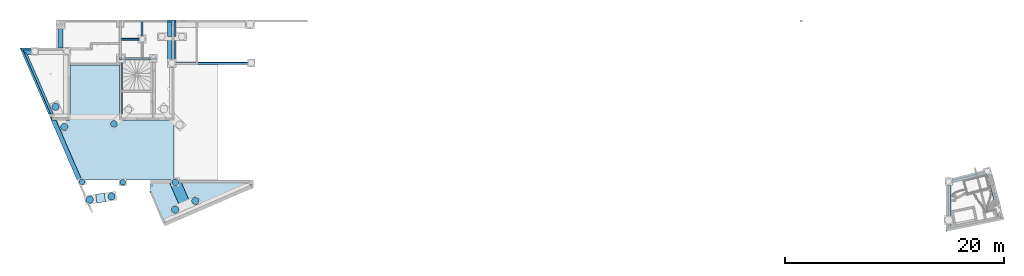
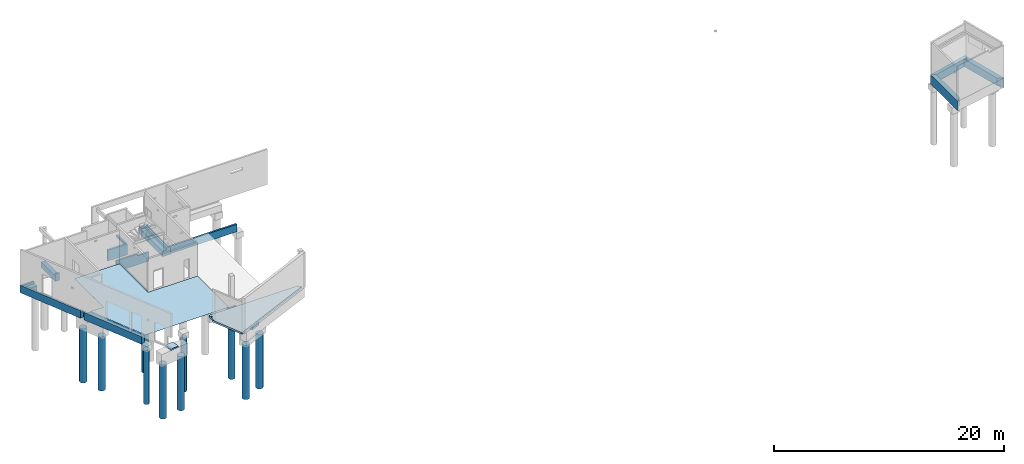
# One storey, part 3 of 29: 15 beams, 13 slabs, 1 opening.
"""IFC2X3 building model written with IfcOpenShell, lengths in centimetres."""

from ifc_helpers import new_model, entity, si_unit, converted_unit, derived_unit, direction, frame, frame_2d, origin, origin_2d_with_axis, place, context, subcontext, project, spatial, polyline, rectangle, circle, outline, extrude, faceted_brep, source, transform, mapped, material, material_list, layer, layer_set, layer_usage, type_object, type_shapes, element, save


model = new_model("IFC2X3")

# Units and contexts
model_context = context("Model", 3, precision=0.001, world=origin(), true_north=direction((6.12303176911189e-17, 1.0)))
body_context = subcontext(model_context, "Body", "Model", "MODEL_VIEW")
ifc_project = project(units=[si_unit("LENGTHUNIT", "METRE", prefix="CENTI"), si_unit("AREAUNIT", "SQUARE_METRE"), si_unit("VOLUMEUNIT", "CUBIC_METRE"), converted_unit("PLANEANGLEUNIT", "DEGREE", entity("IfcRatioMeasure", 0.0174532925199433), si_unit("PLANEANGLEUNIT", "RADIAN"), dimensions=[0, 0, 0, 0, 0, 0, 0]), si_unit("MASSUNIT", "GRAM", prefix="KILO"), derived_unit("MASSDENSITYUNIT", [(si_unit("MASSUNIT", "GRAM", prefix="KILO"), 1), (si_unit("LENGTHUNIT", "METRE"), -3)]), si_unit("TIMEUNIT", "SECOND"), si_unit("FREQUENCYUNIT", "HERTZ"), si_unit("THERMODYNAMICTEMPERATUREUNIT", "DEGREE_CELSIUS"), derived_unit("THERMALTRANSMITTANCEUNIT", [(si_unit("MASSUNIT", "GRAM", prefix="KILO"), 1), (si_unit("THERMODYNAMICTEMPERATUREUNIT", "KELVIN"), -1), (si_unit("TIMEUNIT", "SECOND"), -3)]), derived_unit("VOLUMETRICFLOWRATEUNIT", [(si_unit("LENGTHUNIT", "METRE"), 3), (si_unit("TIMEUNIT", "SECOND"), -1)]), si_unit("ELECTRICCURRENTUNIT", "AMPERE"), si_unit("ELECTRICVOLTAGEUNIT", "VOLT"), si_unit("POWERUNIT", "WATT"), si_unit("FORCEUNIT", "NEWTON"), si_unit("ILLUMINANCEUNIT", "LUX"), si_unit("LUMINOUSFLUXUNIT", "LUMEN"), si_unit("LUMINOUSINTENSITYUNIT", "CANDELA"), derived_unit("USERDEFINED", [(si_unit("MASSUNIT", "GRAM", prefix="KILO"), -1), (si_unit("LENGTHUNIT", "METRE"), -2), (si_unit("TIMEUNIT", "SECOND"), 3), (si_unit("LUMINOUSFLUXUNIT", "LUMEN"), 1)]), derived_unit("LINEARVELOCITYUNIT", [(si_unit("LENGTHUNIT", "METRE"), 1), (si_unit("TIMEUNIT", "SECOND"), -1)]), si_unit("PRESSUREUNIT", "PASCAL"), derived_unit("USERDEFINED", [(si_unit("LENGTHUNIT", "METRE"), -2), (si_unit("MASSUNIT", "GRAM", prefix="KILO"), 1), (si_unit("TIMEUNIT", "SECOND"), -2)])], contexts=[model_context])

# Site, building, storey
site_placement = place(None, origin())
site = spatial("IfcSite", under=ifc_project, at=site_placement, Name="Default", CompositionType="ELEMENT")
building_placement = place(site_placement, origin())
building = spatial("IfcBuilding", under=site, at=building_placement, Name="CAGE 03", CompositionType="ELEMENT")
storey_placement = place(building_placement, frame((0.0, 0.0, -34.0)))
storey = spatial("IfcBuildingStorey", under=building, at=storey_placement, Name="+3.66", CompositionType="ELEMENT", Elevation=-34.0000000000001)

# Beams
ifc_material_1 = material(Name="Béton, C25/30")
ifc_material_2 = material(Name="<Unnamed>")
ifc_material_list = material_list([ifc_material_1, ifc_material_2])
beam_type_1 = type_object("IfcBeamType", Name="40x80ht", PredefinedType="BEAM", material=ifc_material_list)
beam_1_placement = place(storey_placement, frame((3097.36582014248, 5028.16066607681, -85.0), z_axis=(0.0, 0.0, 1.0), x_axis=(0.0, 1.0, 0.0)))
element("IfcBeam", 1, at=beam_1_placement, inside=storey, type_object=beam_type_1, material=ifc_material_1, Name="BBGO-Poutre rect:40x80ht", ObjectType="BBGO-Poutre rect:40x80ht", context=body_context, shape_type="Brep", body=[
    faceted_brep([(0.0, -40.0, 80.0), (0.0, 0.0, 80.0), (0.0, 0.0, 0.0), (0.0, -40.0, 0.0), (9.0, -40.0, 0.0), (247.5, -40.0, 0.0), (247.5, -40.0, 60.0), (9.0, -40.0, 60.0), (9.0, -40.0, 80.0), (9.0, 0.0, 0.0), (247.500000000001, 0.0, 0.0), (9.0, 0.0, 80.0), (9.0, 0.0, 60.0), (247.500000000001, 0.0, 60.0)], [[[0, 1, 2, 3]], [[0, 3, 4, 5, 6, 7, 8]], [[3, 2, 9, 10, 5, 4]], [[2, 1, 11, 12, 13, 10, 9]], [[7, 6, 13, 12]], [[8, 7, 12, 11]], [[6, 5, 10, 13]], [[1, 0, 8, 11]]]),
])
beam_2_placement = place(storey_placement, frame((2746.91306854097, 4409.12314852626, -85.0), z_axis=(0.0, 0.0, 1.0), x_axis=(-0.397106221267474, 0.91777265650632, 0.0)))
element("IfcBeam", 2, at=beam_2_placement, inside=storey, type_object=beam_type_1, material=ifc_material_1, Name="BBGO-Poutre rect:40x80ht", ObjectType="BBGO-Poutre rect:40x80ht", context=body_context, shape_type="Brep", body=[
    faceted_brep([(-116.523353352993, -289.397605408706, 0.0), (-95.2132005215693, -289.397605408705, 0.0), (493.712603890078, -289.397605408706, 0.0), (493.712603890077, -289.397605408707, 60.0), (-95.2132005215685, -289.397605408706, 60.0), (-116.523353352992, -289.397605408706, 60.0), (-116.523353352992, -269.303128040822, 0.0), (-91.2501727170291, -280.23844757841, 0.0), (-77.9058110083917, -249.397605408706, 0.0), (576.395660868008, -249.397605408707, 0.0), (576.395660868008, -249.397605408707, 80.0), (-77.9058110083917, -249.397605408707, 80.0), (539.188285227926, -267.397605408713, 80.0), (-85.6941362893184, -267.397605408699, 80.0), (539.188285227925, -267.397605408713, 60.0), (-85.6941362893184, -267.397605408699, 60.0), (-91.2501727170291, -280.23844757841, 60.0), (-116.523353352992, -269.303128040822, 60.0)], [[[0, 1, 2, 3, 4, 5]], [[2, 1, 0, 6, 7, 8, 9]], [[10, 9, 8, 11]], [[12, 10, 11, 13]], [[5, 4, 3, 14, 15, 16, 17]], [[14, 12, 13, 15]], [[2, 9, 10, 12, 14, 3]], [[16, 7, 6, 17]], [[7, 16, 15, 13, 11, 8]], [[0, 5, 17, 6]]]),
])
beam_3_placement = place(storey_placement, frame((3022.07551992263, 3828.40290415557, -85.0), z_axis=(0.0, 0.0, 1.0), x_axis=(-0.397106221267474, 0.91777265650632, 0.0)))
element("IfcBeam", 3, at=beam_3_placement, inside=storey, type_object=beam_type_1, material=ifc_material_1, Name="BBGO-Poutre rect:40x80ht", ObjectType="BBGO-Poutre rect:40x80ht", context=body_context, shape_type="Brep", body=[
    faceted_brep([(487.096986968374, -267.468653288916, 0.0), (487.096986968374, -267.468653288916, 80.0), (-98.4222146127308, -267.468653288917, 80.0), (-98.4222146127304, -267.468653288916, 0.0), (500.510213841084, -236.468653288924, 0.0), (-98.4222146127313, -227.468653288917, 0.0), (-91.3604579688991, -227.468653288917, 0.0), (504.404376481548, -227.468653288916, 0.0), (525.714529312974, -227.468653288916, 0.0), (525.714529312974, -247.37417592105, 0.0), (-98.4222146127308, -227.468653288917, 80.0), (525.714529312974, -227.468653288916, 80.0), (500.510213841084, -236.468653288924, 80.0), (521.310577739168, -245.468653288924, 80.0), (525.714529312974, -245.468653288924, 80.0), (-98.4222146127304, -245.468653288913, 80.0), (525.714529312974, -247.374175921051, 60.0), (521.310577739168, -245.468653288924, 60.0), (525.714529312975, -245.468653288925, 60.0)], [[[0, 1, 2, 3]], [[4, 0, 3, 5, 6, 7, 8, 9]], [[5, 10, 11, 8, 7, 6]], [[1, 12, 13, 14, 11, 10, 15, 2]], [[12, 4, 9, 16, 17, 13]], [[1, 0, 4, 12]], [[3, 2, 15, 10, 5]], [[18, 17, 16]], [[17, 18, 14, 13]], [[8, 11, 14, 18, 16, 9]]]),
])
beam_type_2 = type_object("IfcBeamType", Name="BBGO-Poutre rect:60x80ht", PredefinedType="BEAM")
beam_4_placement = place(storey_placement, frame((2746.91306854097, 4977.16066607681, -85.0)))
element("IfcBeam", 4, at=beam_4_placement, inside=storey, type_object=beam_type_2, material=ifc_material_1, Name="BBGO-Poutre rect:60x80ht", ObjectType="BBGO-Poutre rect:60x80ht", context=body_context, shape_type="Brep", body=[
    faceted_brep([(69.5448625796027, 0.0, 0.0), (135.452751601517, 0.0, 0.0), (135.452751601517, 0.0, 60.0), (69.5448625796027, 0.0, 60.0), (0.0, 60.0, 0.0), (135.452751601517, 60.0, 0.0), (0.0, 60.0, 80.0), (19.6127002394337, 60.0, 80.0), (135.452751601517, 60.0, 80.0), (31.2951881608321, 33.0, 80.0), (27.4010255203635, 42.0, 80.0), (135.452751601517, 42.0, 80.0), (135.452751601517, 42.0, 60.0), (27.4010255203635, 42.0, 60.0), (31.2951881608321, 33.0, 60.0)], [[[0, 1, 2, 3]], [[1, 0, 4, 5]], [[5, 4, 6, 7, 8]], [[8, 7, 6, 9, 10, 11]], [[12, 13, 14, 3, 2]], [[13, 10, 9, 14]], [[10, 13, 12, 11]], [[1, 5, 8, 11, 12, 2]], [[6, 4, 0, 3, 14, 9]]]),
])
beam_type_3 = type_object("IfcBeamType", Name="BBGO-Poutre rect:30x80ht", PredefinedType="BEAM")
beam_5_placement = place(storey_placement, frame((3654.36582014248, 4436.66066607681, -85.0), z_axis=(0.0, 0.0, 1.0), x_axis=(0.0, 1.0, 0.0)))
element("IfcBeam", 5, at=beam_5_placement, inside=storey, type_object=beam_type_3, material=ifc_material_1, Name="BBGO-Poutre rect:30x80ht", ObjectType="BBGO-Poutre rect:30x80ht", context=body_context, shape_type="Brep", body=[
    faceted_brep([(496.0, -30.0, 60.0), (0.0, -30.0, 60.0), (0.0, -30.0, 0.0), (496.0, -30.0, 0.0), (0.0, 0.0, 0.0), (496.0, 0.0, 0.0), (445.0, 0.0, 80.0), (445.0, 0.0, 10.0), (463.0, 0.0, 10.0), (463.0, 0.0, 60.0), (463.0, 0.0, 80.0), (496.0, 0.0, 80.0), (0.0, 0.0, 80.0), (463.0, -9.0, 80.0), (445.0, -9.0, 80.0), (0.0, -18.0, 80.0), (496.0, -18.0, 80.0), (496.0, -18.0, 60.0), (0.0, -18.0, 60.0), (445.0, -9.0, 10.0), (463.0, -9.0, 10.0)], [[[0, 1, 2, 3]], [[2, 4, 5, 3]], [[6, 7, 8, 9, 10, 11, 5, 4, 12]], [[13, 14, 6, 12, 15, 16, 11, 10]], [[1, 0, 17, 18]], [[19, 14, 13, 20]], [[14, 19, 7, 6]], [[19, 20, 8, 7]], [[20, 13, 10, 9, 8]], [[16, 15, 18, 17]], [[2, 1, 18, 15, 12, 4]], [[0, 3, 5, 11, 16, 17]]]),
])
beam_type_4 = type_object("IfcBeamType", Name="BBGO-Poutre rect:80x80ht", PredefinedType="BEAM")
beam_6_placement = place(storey_placement, frame((4092.36582014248, 4886.66066607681, -85.0), z_axis=(0.0, 0.0, 1.0), x_axis=(0.0, 1.0, 0.0)))
element("IfcBeam", 6, at=beam_6_placement, inside=storey, type_object=beam_type_4, material=ifc_material_1, Name="BBGO-Poutre rect:80x80ht", ObjectType="BBGO-Poutre rect:80x80ht", context=body_context, shape_type="Brep", body=[
    faceted_brep([(255.0, -80.0, 0.0), (255.0, 0.0, 0.0), (255.0, 0.0, 60.0), (255.0, -42.0, 60.0), (255.0, -42.0, 80.0), (255.0, -60.0, 80.0), (255.0, -60.0, 65.0), (255.0, -80.0, 65.0), (0.0, -80.0, 0.0), (0.0, -80.0, 5.0), (0.0, -80.0, 80.0), (0.0, -60.0, 80.0), (0.0, -42.0, 80.0), (0.0, -42.0, 60.0), (0.0, -20.0, 60.0), (0.0, 0.0, 60.0), (0.0, 0.0, 0.0), (0.0, -20.0, 0.0), (0.0, -60.0, 0.0), (52.5000000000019, 0.0, 0.0), (52.5000000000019, -80.0, 0.0), (25.0, -80.0, 65.0), (18.0, -80.0, 65.0), (18.0, -80.0, 80.0), (18.0, -60.0, 80.0), (9.0, -42.0, 80.0), (18.0, -60.0, 65.0)], [[[0, 1, 2, 3, 4, 5, 6, 7]], [[8, 9, 10, 11, 12, 13, 14, 15, 16, 17, 18]], [[1, 19, 16, 15, 2]], [[1, 0, 20, 8, 18, 17, 16, 19]], [[10, 9, 8, 20, 0, 7, 21, 22, 23]], [[12, 11, 10, 23, 24, 5, 4, 25]], [[15, 14, 13, 3, 2]], [[13, 12, 25, 4, 3]], [[6, 26, 22, 21, 7]], [[22, 26, 24, 23]], [[26, 6, 5, 24]]]),
])
beam_7_placement = place(storey_placement, frame((4092.36582014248, 5141.66066607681, -85.0), z_axis=(0.0, 0.0, 1.0), x_axis=(0.0, 1.0, 0.0)))
element("IfcBeam", 7, at=beam_7_placement, inside=storey, type_object=beam_type_4, material=ifc_material_1, Name="BBGO-Poutre rect:80x80ht", ObjectType="BBGO-Poutre rect:80x80ht", context=body_context, shape_type="Brep", body=[
    faceted_brep([(152.0, 0.0, 0.0), (152.0, 0.0, 80.0), (152.0, -60.0, 80.0), (152.0, -80.0, 80.0), (152.0, -80.0, 5.0), (152.0, -80.0, 0.0), (0.0, 0.0, 0.0), (0.0, -80.0, 0.0), (0.0, -80.0, 65.0), (0.0, -60.0, 65.0), (0.0, -60.0, 80.0), (0.0, -42.0, 80.0), (0.0, -42.0, 60.0), (0.0, 0.0, 60.0), (134.0, 0.0, 0.0), (134.0, 0.0, 60.0), (134.0, 0.0, 80.0), (134.0, -80.0, 80.0), (134.0, -80.0, 65.0), (82.0, -80.0, 65.0), (134.0, -42.0, 80.0), (134.0, -60.0, 80.0), (134.0, -42.0, 60.0), (134.0, -60.0, 65.0)], [[[0, 1, 2, 3, 4, 5]], [[6, 7, 8, 9, 10, 11, 12, 13]], [[1, 0, 14, 6, 13, 15, 16]], [[0, 5, 7, 6, 14]], [[5, 4, 3, 17, 18, 19, 8, 7]], [[3, 2, 1, 16, 20, 11, 10, 21, 17]], [[22, 15, 13, 12]], [[22, 20, 16, 15]], [[20, 22, 12, 11]], [[18, 23, 9, 8, 19]], [[23, 18, 17, 21]], [[9, 23, 21, 10]]]),
])
beam_type_5 = type_object("IfcBeamType", Name="BBGO-Poutre rect:100x100ht", PredefinedType="BEAM")
beam_8_placement = place(storey_placement, frame((4101.7324024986, 3550.50304672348, -100.0), z_axis=(0.0, 0.0, 1.0), x_axis=(-0.397106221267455, 0.917772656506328, 0.0)))
element("IfcBeam", 8, at=beam_8_placement, inside=storey, type_object=beam_type_5, material=ifc_material_1, Name="BBGO-Poutre rect:100x100ht", ObjectType="BBGO-Poutre rect:100x100ht", context=body_context, shape_type="Brep", body=[
    faceted_brep([(195.157601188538, -211.649439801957, 80.0), (182.082467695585, -211.649439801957, 80.0), (-48.309008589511, -211.649439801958, 80.0), (-48.3090085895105, -211.649439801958, 0.0), (214.770301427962, -211.649439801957, 0.0), (214.770301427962, -211.649439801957, 20.0), (214.770301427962, -211.649439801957, 100.0), (195.157601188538, -211.649439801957, 100.0), (-48.3090085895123, -111.649439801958, 0.0), (258.038775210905, -111.649439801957, 0.0), (-48.3090085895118, -111.649439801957, 80.0), (225.350941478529, -111.649439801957, 80.0), (225.350941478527, -111.649439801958, 20.0), (258.038775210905, -111.649439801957, 20.0), (225.025977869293, -187.947017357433, 100.0), (240.910226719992, -151.23611109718, 100.0), (248.852351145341, -132.880657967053, 100.0), (232.332443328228, -125.732745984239, 100.0), (208.506070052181, -180.79910537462, 100.0), (232.332443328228, -125.732745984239, 80.0), (221.319171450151, -120.967471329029, 80.0), (248.852351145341, -132.880657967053, 20.0), (221.319171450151, -120.967471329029, 20.0)], [[[0, 1, 2, 3, 4, 5, 6, 7]], [[4, 3, 8, 9]], [[8, 10, 11, 12, 13, 9]], [[7, 6, 14, 15, 16, 17, 18]], [[2, 1, 0, 19, 20, 11, 10]], [[3, 2, 10, 8]], [[0, 7, 18, 17, 19]], [[6, 5, 4, 9, 13, 21, 16, 15, 14]], [[21, 22, 20, 19, 17, 16]], [[20, 22, 12, 11]], [[22, 21, 13, 12]]]),
])
beam_type_6 = type_object("IfcBeamType", Name="BBGO-Poutre rect:25x80ht", PredefinedType="BEAM")
beam_9_placement = place(storey_placement, frame((4152.36582014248, 4886.66066607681, -80.0)))
element("IfcBeam", 9, at=beam_9_placement, inside=storey, type_object=beam_type_6, material=ifc_material_1, Name="BBGO-Poutre rect:25x80ht", ObjectType="BBGO-Poutre rect:25x80ht", context=body_context, shape_type="Brep", body=[
    faceted_brep([(686.0, 0.0, 0.0), (686.0, 0.0, 80.0), (218.0, 0.0, 80.0), (0.0, 0.0, 80.0), (0.0, 0.0, 75.0), (20.0, 0.0, 75.0), (20.0, 0.0, 0.0), (20.0, 25.0, 0.0), (686.0, 25.0, 0.0), (218.0, 25.0, 68.0), (686.0, 25.0, 68.0), (20.0, 25.0, 60.0), (218.0, 25.0, 60.0), (686.0, 18.0, 80.0), (218.0, 18.0, 80.0), (0.0, 18.0, 80.0), (0.0, 9.0, 80.0), (218.0, 18.0, 68.0), (686.0, 18.0, 68.0), (20.0, 18.0, 75.0), (0.0, 9.0, 75.0), (0.0, 18.0, 75.0), (20.0, 18.0, 60.0), (218.0, 18.0, 60.0)], [[[0, 1, 2, 3, 4, 5, 6]], [[7, 8, 0, 6]], [[9, 10, 8, 7, 11, 12]], [[1, 13, 14, 15, 16, 3, 2]], [[10, 9, 17, 18]], [[19, 5, 4, 20, 21]], [[7, 6, 5, 19, 22, 11]], [[15, 21, 20, 4, 3, 16]], [[23, 12, 11, 22]], [[12, 23, 17, 9]], [[18, 17, 23, 22, 19, 21, 15, 14, 13]], [[1, 0, 8, 10, 18, 13]]]),
])
beam_type_7 = type_object("IfcBeamType", Name="BBGO-Poutre rect:18x115ht", PredefinedType="BEAM")
beam_10_placement = place(storey_placement, frame((3654.36582014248, 4932.66066607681, -120.0), z_axis=(0.0, 0.0, 1.0), x_axis=(-1.0, 0.0, 0.0)))
element("IfcBeam", 10, at=beam_10_placement, inside=storey, type_object=beam_type_7, material=ifc_material_1, Name="BBGO-Poutre rect:18x115ht", ObjectType="BBGO-Poutre rect:18x115ht", context=body_context, shape_type="Brep", body=[
    faceted_brep([(0.0, -18.0, 0.0), (0.0, 0.0, 0.0), (0.0, 0.0, 35.0), (0.0, 0.0, 95.0), (0.0, 0.0, 115.0), (0.0, -18.0, 115.0), (0.0, -18.0, 95.0), (-329.0, 0.0, 0.0), (-329.0, -18.0, 0.0), (-329.0, -18.0, 95.0), (-329.0, 0.0, 95.0), (-329.0, 0.0, 35.0), (-216.0, -18.0, 0.0), (-198.0, -18.0, 0.0), (-18.0, -18.0, 0.0), (-18.0, -18.0, 115.0), (-213.0, -18.0, 115.0), (-213.0, -18.0, 113.0), (-213.0, -18.0, 95.0), (-216.0, -18.0, 95.0), (-289.0, 0.0, 95.0), (-213.0, 0.0, 95.0), (-213.0, 0.0, 115.0), (-18.0, 0.0, 115.0)], [[[0, 1, 2, 3, 4, 5, 6]], [[7, 8, 9, 10, 11]], [[8, 12, 13, 14, 0, 6, 5, 15, 16, 17, 18, 19, 9]], [[1, 0, 14, 13, 12, 8, 7]], [[1, 7, 11, 10, 20, 21, 22, 23, 4, 3, 2]], [[5, 4, 23, 22, 16, 15]], [[18, 21, 20, 10, 9, 19]], [[21, 18, 17, 16, 22]]]),
])
beam_11_placement = place(storey_placement, frame((3672.36582014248, 5110.66066607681, -120.0), z_axis=(0.0, 0.0, 1.0), x_axis=(-1.0, 0.0, 0.0)))
element("IfcBeam", 11, at=beam_11_placement, inside=storey, type_object=beam_type_7, material=ifc_material_1, Name="BBGO-Poutre rect:18x115ht", ObjectType="BBGO-Poutre rect:18x115ht", context=body_context, shape_type="Brep", body=[
    faceted_brep([(-198.0, 0.0, 0.0), (-198.0, -18.0, 0.0), (-198.0, -18.0, 95.0), (-198.0, 0.0, 95.0), (0.0, -18.0, 0.0), (0.0, -18.0, 115.0), (-195.0, -18.0, 115.0), (-195.0, -18.0, 95.0), (-180.0, 0.0, 0.0), (0.0, 0.0, 0.0), (-195.0, 0.0, 95.0), (-195.0, 0.0, 113.0), (-195.0, 0.0, 115.0), (0.0, 0.0, 115.0), (0.0, 0.0, 20.0)], [[[0, 1, 2, 3]], [[2, 1, 4, 5, 6, 7]], [[1, 0, 8, 9, 4]], [[0, 3, 10, 11, 12, 13, 14, 9, 8]], [[12, 6, 5, 13]], [[7, 10, 3, 2]], [[5, 4, 9, 14, 13]], [[10, 7, 6, 12, 11]]]),
])
beam_type_8 = type_object("IfcBeamType", Name="BBGO-Poutre rect:45x101ht", PredefinedType="BEAM")
beam_12_placement = place(storey_placement, frame((11201.3658201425, 3362.92897836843, -101.0), z_axis=(0.0, 0.0, 1.0), x_axis=(0.0, 1.0, 0.0)))
element("IfcBeam", 12, at=beam_12_placement, inside=storey, type_object=beam_type_8, material=ifc_material_1, Name="BBGO-Poutre rect:45x101ht", ObjectType="BBGO-Poutre rect:45x101ht", context=body_context, shape_type="Brep", body=[
    faceted_brep([(445.296694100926, -45.0, 101.0), (46.0313474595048, -45.0, 101.0), (46.0313474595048, -45.0, 20.0), (445.296694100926, -45.0, 20.0), (0.0, 0.0, 0.0), (470.752137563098, 0.0, 0.0), (458.024415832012, -22.499999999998, 0.0), (456.849222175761, -18.0, 0.0), (24.1302428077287, -18.0, 0.0), (25.5729708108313, -25.0, 0.0), (0.0, 0.0, 101.0), (20.4203707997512, 0.0, 101.0), (452.148447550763, 0.0, 101.0), (470.752137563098, 0.0, 101.0), (24.1302428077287, -18.0, 20.0), (456.849222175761, -18.0, 20.0), (458.024415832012, -22.4999999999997, 20.0), (25.5729708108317, -25.0, 20.0)], [[[0, 1, 2, 3]], [[4, 5, 6, 7, 8, 9]], [[5, 4, 10, 11, 12, 13]], [[1, 0, 13, 12, 11, 10]], [[14, 15, 16, 3, 2, 17]], [[8, 14, 17, 9]], [[15, 14, 8, 7]], [[5, 13, 0, 3, 16, 6]], [[15, 7, 6, 16]], [[1, 10, 4, 9, 17, 2]]]),
])
beam_13_placement = place(storey_placement, frame((11572.9646518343, 3471.80158792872, -101.0), z_axis=(0.0, 0.0, 1.0), x_axis=(0.25267968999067, -0.967549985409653, 0.0)))
element("IfcBeam", 13, at=beam_13_placement, inside=storey, type_object=beam_type_8, material=ifc_material_1, Name="BBGO-Poutre rect:45x101ht", ObjectType="BBGO-Poutre rect:45x101ht", context=body_context, shape_type="Brep", body=[
    faceted_brep([(-444.032009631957, 151.559250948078, 0.0), (-444.032009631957, 142.559250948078, 0.0), (-444.032009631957, 142.559250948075, 80.0), (-444.032009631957, 142.559250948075, 101.0), (-444.032009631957, 151.559250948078, 101.0), (-444.032009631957, 151.559250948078, 80.0), (1.18051208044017, 106.559250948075, 20.0), (1.18051208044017, 106.559250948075, 101.0), (-408.032009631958, 106.559250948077, 101.0), (-408.032009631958, 106.559250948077, 20.0), (-390.032009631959, 151.55925094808, 0.0), (-103.64692310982, 151.559250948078, 0.0), (-23.6469231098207, 151.559250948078, 0.0), (39.5803267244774, 151.559250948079, 0.0), (18.2470963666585, 126.559250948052, 0.0), (18.6127652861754, 133.559250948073, 0.0), (-408.032009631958, 133.559250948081, 0.0), (-408.032009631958, 142.559250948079, 0.0), (-183.032009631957, 151.559250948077, 101.0), (-69.5320096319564, 151.559250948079, 101.0), (19.553056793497, 151.559250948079, 101.0), (39.5803267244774, 151.559250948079, 101.0), (-408.032009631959, 142.559250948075, 101.0), (18.2470963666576, 126.559250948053, 20.0), (-408.032009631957, 133.559250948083, 20.0), (18.6127652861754, 133.559250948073, 20.0)], [[[0, 1, 2, 3, 4, 5]], [[6, 7, 8, 9]], [[0, 10, 11, 12, 13, 14, 15, 16, 17, 1]], [[13, 12, 11, 10, 0, 5, 4, 18, 19, 20, 21]], [[21, 20, 19, 18, 4, 3, 22, 8, 7]], [[13, 21, 7, 6, 23, 14]], [[23, 6, 9, 24, 25]], [[15, 25, 24, 16]], [[25, 15, 14, 23]], [[9, 8, 22, 17, 16, 24]], [[17, 22, 3, 2, 1]]]),
])
beam_type_9 = type_object("IfcBeamType", Name="BBGO-Poutre rect:36x101ht", PredefinedType="BEAM")
beam_14_placement = place(storey_placement, frame((11201.3658201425, 3808.22567246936, -101.0), z_axis=(0.0, 0.0, 1.0), x_axis=(0.967549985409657, 0.252679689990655, 0.0)))
element("IfcBeam", 14, at=beam_14_placement, inside=storey, type_object=beam_type_9, material=ifc_material_1, Name="BBGO-Poutre rect:36x101ht", ObjectType="BBGO-Poutre rect:36x101ht", context=body_context, shape_type="Brep", body=[
    faceted_brep([(417.092161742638, -11.3705860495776, 101.0), (381.092161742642, -11.370586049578, 101.0), (43.5397493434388, -11.370586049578, 101.0), (43.5397493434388, -11.370586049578, 20.0), (381.092161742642, -11.370586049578, 20.0), (408.092161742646, -11.370586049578, 20.0), (408.092161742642, -11.370586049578, 0.0), (417.092161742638, -11.3705860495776, 0.0), (6.43207356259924, 24.629413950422, 0.0), (401.092161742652, 24.6294139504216, 0.0), (417.09216174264, 24.6294139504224, 0.0), (408.092161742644, 6.62941395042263, 0.0), (24.9859114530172, 6.62941395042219, 0.0), (6.43207356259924, 24.629413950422, 101.0), (408.092161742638, 24.629413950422, 101.0), (417.09216174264, 24.6294139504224, 101.0), (417.09216174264, 24.6294139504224, 80.0), (24.9859114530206, 6.6294139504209, 20.0), (408.092161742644, 6.62941395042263, 20.0)], [[[0, 1, 2, 3, 4, 5, 6, 7]], [[8, 9, 10, 7, 6, 11, 12]], [[8, 13, 14, 15, 16, 10, 9]], [[2, 1, 0, 15, 14, 13]], [[5, 4, 3, 17, 18]], [[11, 18, 17, 12]], [[2, 13, 8, 12, 17, 3]], [[18, 11, 6, 5]], [[0, 7, 10, 16, 15]]]),
])
beam_type_10 = type_object("IfcBeamType", Name="20x20ht", PredefinedType="BEAM", material=ifc_material_1)
shared_shape = source(origin(), body_context, "Body", "Brep", [
    faceted_brep([(20.0, 147.0, 20.0), (20.0, 147.0, 0.0), (0.0, 147.0, 0.0), (0.0, 147.0, 20.0), (20.0, 0.0, 20.0), (0.0, 0.0, 20.0), (0.0, 0.0, 0.0), (20.0, 0.0, 0.0)], [[[0, 1, 2, 3]], [[4, 5, 6, 7]], [[1, 0, 4, 7]], [[2, 1, 7, 6]], [[3, 2, 6, 5]], [[0, 3, 5, 4]]]),
])
type_shapes(beam_type_10, [shared_shape])
beam_15_placement = place(storey_placement, frame((3850.36582014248, 5128.66066607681, -25.0)))
element("IfcBeam", 15, at=beam_15_placement, inside=storey, type_object=beam_type_10, material=ifc_material_1, Name="BBGO-Poutre rect:20x20ht", ObjectType="20x20ht", context=body_context, shape_type="MappedRepresentation", body=[
    mapped(shared_shape, transform((0.0, 0.0, 0.0), scale=1.0)),
])

# Slab
ifc_material_3 = material(Name="Site - Asphalte")
ifc_layer_1 = layer(ifc_material_3, 0.1)
ifc_layer_set_1 = layer_set([ifc_layer_1], Name="Sol:Enrobé")
ifc_layer_usage_1 = layer_usage(ifc_layer_set_1, "AXIS3", "POSITIVE", 0.0)
slab_1_placement = place(storey_placement, origin())
element("IfcSlab", 16, at=slab_1_placement, inside=storey, material=ifc_layer_usage_1, Name="Sol:Enrobé", ObjectType="Sol:Enrobé", PredefinedType="FLOOR", context=body_context, shape_type="SweptSolid", body=[
    extrude(outline(polyline([(-601.313956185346, -537.5), (238.953565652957, -537.5), (476.930171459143, 12.5000000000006), (346.686043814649, 12.5000000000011), (346.68604381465, 512.499999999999), (-103.31395618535, 512.499999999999), (-103.313956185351, 12.500000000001), (-601.313956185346, 12.5000000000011), (-601.313956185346, -537.5)])), frame((3551.05186395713, 4369.16066607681, -2.0), z_axis=(0.0, 0.0, -1.0), x_axis=(-1.0, 0.0, 0.0)), (0.0, 0.0, 1.0), 0.0999999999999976),
])

# Slab, opening
ifc_layer_2 = layer(ifc_material_1, 20.0)
ifc_layer_set_2 = layer_set([ifc_layer_2], Name="Sol:Dalle Béton - 20 cm")
ifc_layer_usage_2 = layer_usage(ifc_layer_set_2, "AXIS3", "POSITIVE", 0.0)
slab_2_placement = place(storey_placement, frame((3929.12595385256, 3439.67272818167, -20.0)))
slab_2 = element("IfcSlab", 17, at=slab_2_placement, inside=storey, material=ifc_layer_usage_2, Name="Sol:Dalle Béton - 20 cm", ObjectType="Sol:Dalle Béton - 20 cm", PredefinedType="FLOOR", context=body_context, shape_type="SweptSolid", body=[
    extrude(outline(polyline([(-443.619933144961, 186.993968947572), (-443.619933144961, 164.993968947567), (-465.619933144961, 164.993968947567), (-465.619933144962, 161.3124169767), (339.368908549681, -186.993968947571), (465.619933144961, 104.791281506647), (456.380066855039, 108.868126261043), (456.380066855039, 186.993968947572), (-443.619933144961, 186.993968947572)])), frame((465.619933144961, 186.993968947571, 20.0), z_axis=(0.0, 0.0, -1.0), x_axis=(-1.0, 0.0, 0.0)), (0.0, 0.0, 1.0), 20.0),
])
opening_placement = place(slab_2_placement, origin())
element("IfcOpeningElement", 18, at=opening_placement, cuts=slab_2, ObjectType="Opening", context=body_context, shape_type="SweptSolid", body=[
    extrude(circle(Radius=6.25, at=origin_2d_with_axis()), frame((20.8526061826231, 341.584517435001, 0.0)), (0.0, 0.0, 1.0), 20.0),
])

# Slabs
ifc_material_4 = material(Name="B25")
slab_3_placement = place(storey_placement, origin())
element("IfcSlab", 19, at=slab_3_placement, inside=storey, material=ifc_material_4, Name="Pieux:Ø46/67", ObjectType="Pieux:Ø46/67", PredefinedType="BASESLAB", context=body_context, shape_type="SweptSolid", body=[
    extrude(circle(Radius=33.5, at=origin_2d_with_axis()), frame((3071.34543756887, 4501.39681805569, -812.0), z_axis=(0.0, 0.0, 1.0), x_axis=(0.917772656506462, 0.397106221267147, 0.0)), (0.0, 0.0, 1.0), 575.0),
])
slab_4_placement = place(storey_placement, origin())
element("IfcSlab", 20, at=slab_4_placement, inside=storey, material=ifc_material_4, Name="Pieux:Ø36/53", ObjectType="Pieux:Ø36/53", PredefinedType="BASESLAB", context=body_context, shape_type="SweptSolid", body=[
    extrude(circle(Radius=26.5, at=origin_2d_with_axis()), frame((3313.14059708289, 3816.66066607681, -715.0)), (0.0, 0.0, 1.0), 575.0),
])
slab_5_placement = place(storey_placement, origin())
element("IfcSlab", 21, at=slab_5_placement, inside=storey, material=ifc_material_4, Name="Pieux:Ø36/53", ObjectType="Pieux:Ø36/53", PredefinedType="BASESLAB", context=body_context, shape_type="SweptSolid", body=[
    extrude(circle(Radius=26.5, at=origin_2d_with_axis()), frame((3684.36582014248, 3811.66066607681, -710.0)), (0.0, 0.0, 1.0), 575.0),
])
slab_6_placement = place(storey_placement, origin())
element("IfcSlab", 22, at=slab_6_placement, inside=storey, material=ifc_material_4, Name="Pieux:Ø46/67", ObjectType="Pieux:Ø46/67", PredefinedType="BASESLAB", context=body_context, shape_type="SweptSolid", body=[
    extrude(circle(Radius=33.5, at=frame_2d((-6.47755198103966e-14, -4.28275994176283e-13), x_axis=(1.0, 0.0))), frame((3383.08433633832, 3653.32992725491, -789.0), z_axis=(0.0, 0.0, 1.0), x_axis=(0.149546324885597, -0.98875472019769, 0.0)), (0.0, 0.0, 1.0), 575.0),
])
slab_7_placement = place(storey_placement, origin())
element("IfcSlab", 23, at=slab_7_placement, inside=storey, material=ifc_material_4, Name="Pieux:Ø41/61", ObjectType="Pieux:Ø41/61", PredefinedType="BASESLAB", context=body_context, shape_type="SweptSolid", body=[
    extrude(circle(Radius=30.5, at=origin_2d_with_axis()), frame((4164.86582014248, 3811.66066607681, -740.0)), (0.0, 0.0, 1.0), 575.0),
])
slab_8_placement = place(storey_placement, origin())
element("IfcSlab", 24, at=slab_8_placement, inside=storey, material=ifc_material_4, Name="Pieux:Ø46/67", ObjectType="Pieux:Ø46/67", PredefinedType="BASESLAB", context=body_context, shape_type="SweptSolid", body=[
    extrude(circle(Radius=33.5, at=origin_2d_with_axis()), frame((4163.13877641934, 3562.57122552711, -800.0), z_axis=(0.0, 0.0, 1.0), x_axis=(0.917772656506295, 0.397106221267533, 0.0)), (0.0, 0.0, 1.0), 575.0),
])
slab_9_placement = place(storey_placement, origin())
element("IfcSlab", 25, at=slab_9_placement, inside=storey, material=ifc_material_4, Name="Pieux:Ø46/67", ObjectType="Pieux:Ø46/67", PredefinedType="BASESLAB", context=body_context, shape_type="SweptSolid", body=[
    extrude(circle(Radius=33.5, at=frame_2d((-3.44010619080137e-13, -7.95060673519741e-13), x_axis=(1.0, 0.0))), frame((3151.16378804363, 4316.92451409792, -812.0), z_axis=(0.0, 0.0, 1.0), x_axis=(0.917772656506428, 0.397106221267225, 0.0)), (0.0, 0.0, 1.0), 575.0),
])
slab_10_placement = place(storey_placement, origin())
element("IfcSlab", 26, at=slab_10_placement, inside=storey, material=ifc_material_4, Name="Pieux:Ø41/61", ObjectType="Pieux:Ø41/61", PredefinedType="BASESLAB", context=body_context, shape_type="SweptSolid", body=[
    extrude(circle(Radius=30.5, at=origin_2d_with_axis()), frame((3604.66554966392, 4344.46039559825, -802.0), z_axis=(0.0, 0.0, 1.0), x_axis=(0.0, -1.0, 0.0)), (0.0, 0.0, 1.0), 575.0),
])
slab_11_placement = place(storey_placement, origin())
element("IfcSlab", 27, at=slab_11_placement, inside=storey, material=ifc_material_4, Name="Pieux:Ø46/67", ObjectType="Pieux:Ø46/67", PredefinedType="BASESLAB", context=body_context, shape_type="SweptSolid", body=[
    extrude(circle(Radius=33.5, at=origin_2d_with_axis()), frame((4347.61108037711, 3642.38957600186, -800.0), z_axis=(0.0, 0.0, 1.0), x_axis=(0.917772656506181, 0.397106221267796, 0.0)), (0.0, 0.0, 1.0), 575.0),
])
slab_12_placement = place(storey_placement, origin())
element("IfcSlab", 28, at=slab_12_placement, inside=storey, material=ifc_material_4, Name="Pieux:Ø46/67", ObjectType="Pieux:Ø46/67", PredefinedType="BASESLAB", context=body_context, shape_type="SweptSolid", body=[
    extrude(circle(Radius=33.5, at=origin_2d_with_axis()), frame((3581.82403509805, 3683.38873855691, -789.0), z_axis=(0.0, 0.0, 1.0), x_axis=(0.149546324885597, -0.98875472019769, 0.0)), (0.0, 0.0, 1.0), 575.0),
])
slab_13_placement = place(storey_placement, origin())
element("IfcSlab", 29, at=slab_13_placement, inside=storey, material=ifc_material_1, Name="M_Base-Rectangulaire:80x70x15ht", ObjectType="M_Base-Rectangulaire:80x70x15ht", PredefinedType="BASESLAB", context=body_context, shape_type="SweptSolid", body=[
    extrude(rectangle(XDim=79.9999999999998, YDim=79.9999999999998, at=frame_2d((2.41584530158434e-13, 1.88293824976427e-13), x_axis=(1.0, 0.0))), frame((3482.45418571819, 3668.35933290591, -89.0), z_axis=(0.0, 0.0, 1.0), x_axis=(0.149546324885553, -0.988754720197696, 0.0)), (0.0, 0.0, 1.0), 15.0),
])

save(model, "model.ifc")
